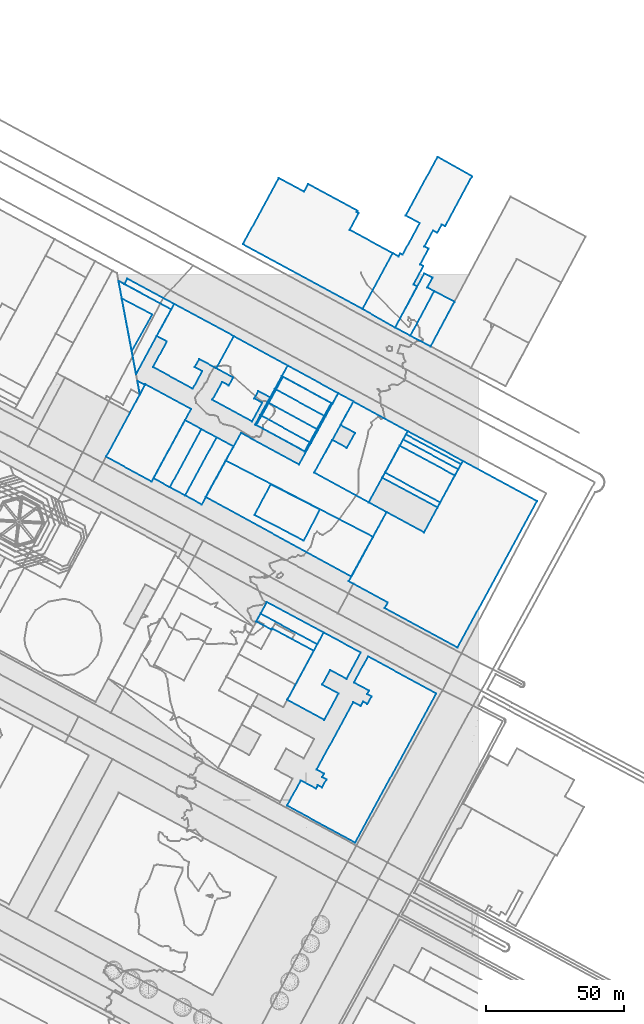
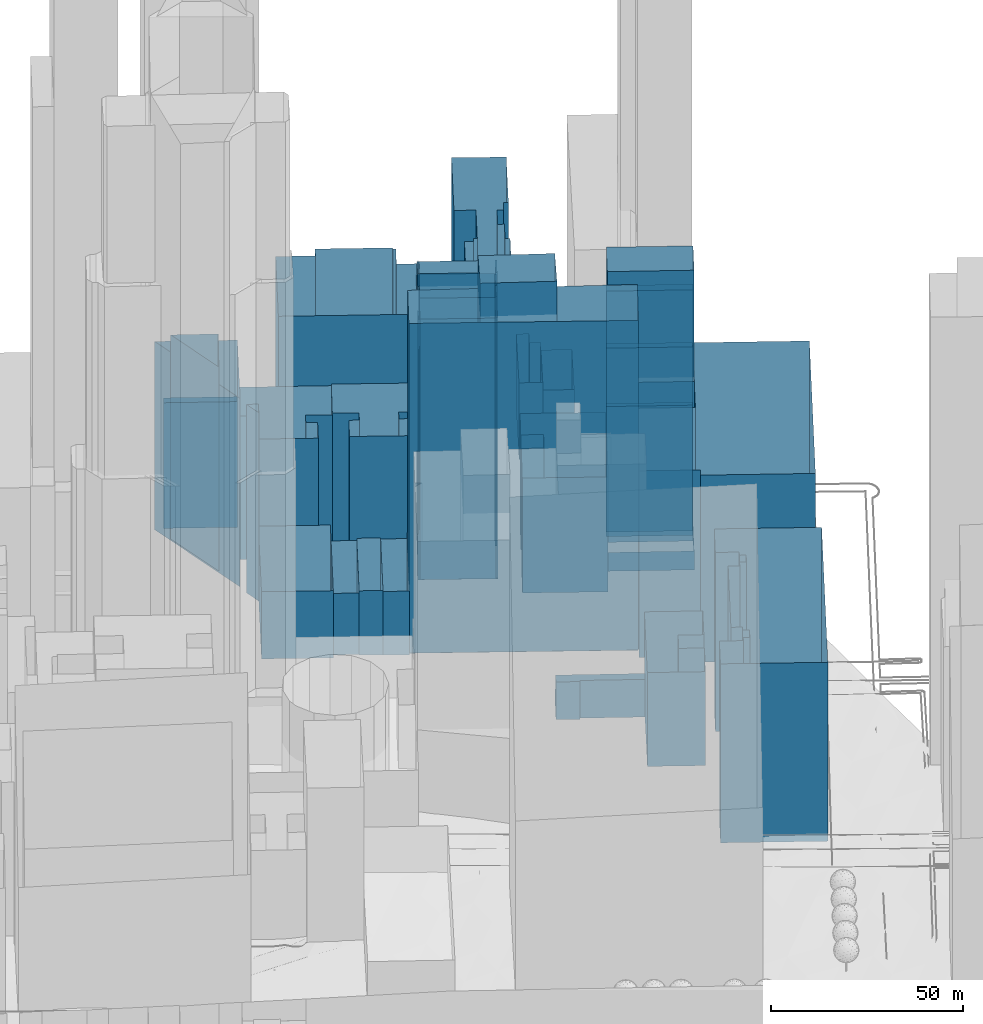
# Not in any storey, part 30 of 76: 42 walls.
"""IFC2X3 model written with IfcOpenShell, lengths in metres."""

import ifcopenshell
import ifcopenshell.guid

model = None  # the IFC model being written
_history = None  # IfcOwnerHistory: only IFC2X3 demands one
_inside = {}  # id of a spatial element -> (the spatial element, [elements in it])
_under = {}  # id of a project, library or spatial element -> (it, [spatial elements below it])
_declared = {}  # id of a project -> (the project, [libraries it declares])
_typed = {}  # id of a type object -> (the type object, [elements of that type])
_made_of = {}  # id of a material, layer set ... -> (it, [elements and type objects made of it])


def new_model(schema):
    """Start an empty IFC model of exactly this schema.

    Asked for "IFC4X3", IfcOpenShell would pick the latest addendum, in which some entities
    have other attributes; the version numbers below select the first issue.
    IFC2X3 requires an IfcOwnerHistory on every rooted entity: one is made here for all.
    """
    global model, _history
    if schema == "IFC4X3":
        model = ifcopenshell.file(schema_version=(4, 3, 0, 0))
    else:
        model = ifcopenshell.file(schema=schema)
    _inside.clear()
    _under.clear()
    _declared.clear()
    _typed.clear()
    _made_of.clear()
    _history = None
    if model.schema == "IFC2X3":
        org = make("IfcOrganization", Name="unknown")
        user = make(
            "IfcPersonAndOrganization",
            ThePerson=make("IfcPerson", FamilyName="unknown"),
            TheOrganization=org,
        )
        app = make(
            "IfcApplication",
            ApplicationDeveloper=org,
            Version="unknown",
            ApplicationFullName="unknown",
            ApplicationIdentifier="unknown",
        )
        _history = make(
            "IfcOwnerHistory",
            OwningUser=user,
            OwningApplication=app,
            ChangeAction="ADDED",
            CreationDate=0,
        )
    return model


def make(cls, **values):
    """One entity of the class cls with the attributes given. An attribute that is None is left unset."""
    return model.create_entity(
        cls, **{name: value for name, value in values.items() if value is not None}
    )


def rooted(cls, **values):
    """An entity with a GlobalId (a new one), such as an element, a storey or a relation."""
    return make(cls, GlobalId=ifcopenshell.guid.new(), OwnerHistory=_history, **values)


def si_unit(unit_type, name, prefix=None):
    """IfcSIUnit, for example si_unit("LENGTHUNIT", "METRE", prefix="MILLI")."""
    return make("IfcSIUnit", UnitType=unit_type, Prefix=prefix, Name=name)


def assignment(units):
    """IfcUnitAssignment: the units of a project."""
    return None if units is None else make("IfcUnitAssignment", Units=units)


def point(xyz):
    """IfcCartesianPoint."""
    return None if xyz is None else make("IfcCartesianPoint", Coordinates=xyz)


def direction(xyz):
    """IfcDirection."""
    return None if xyz is None else make("IfcDirection", DirectionRatios=xyz)


def frame(location, z_axis=None, x_axis=None):
    """IfcAxis2Placement3D, a coordinate frame: its origin and axes. An axis left out is left unset."""
    return make(
        "IfcAxis2Placement3D",
        Location=point(location),
        Axis=direction(z_axis),
        RefDirection=direction(x_axis),
    )


def origin_with_axes():
    """The frame at (0, 0, 0) with the z axis (0, 0, 1) and the x axis (1, 0, 0) written out."""
    return frame((0.0, 0.0, 0.0), z_axis=(0.0, 0.0, 1.0), x_axis=(1.0, 0.0, 0.0))


def place(relative_to, where):
    """IfcLocalPlacement: puts the frame where relative to a parent placement (None: the world)."""
    return make(
        "IfcLocalPlacement", PlacementRelTo=relative_to, RelativePlacement=where
    )


def context(
    kind, dimensions, precision=None, world=None, true_north=None, identifier=None
):
    """IfcGeometricRepresentationContext, for example the 3D "Model" context."""
    return make(
        "IfcGeometricRepresentationContext",
        ContextIdentifier=identifier,
        ContextType=kind,
        CoordinateSpaceDimension=dimensions,
        Precision=precision,
        WorldCoordinateSystem=world,
        TrueNorth=true_north,
    )


def subcontext(parent, identifier, kind, view, scale=None):
    """IfcGeometricRepresentationSubContext, for example "Body" below "Model"."""
    return make(
        "IfcGeometricRepresentationSubContext",
        ContextIdentifier=identifier,
        ContextType=kind,
        ParentContext=parent,
        TargetScale=scale,
        TargetView=view,
    )


def project(units=None, contexts=None):
    """IfcProject with its units and contexts."""
    return rooted(
        "IfcProject",
        Name="project",
        RepresentationContexts=contexts,
        UnitsInContext=assignment(units),
    )


def faces_of(points, faces, orient=None, outer=None):
    """IfcFace entities. A face is a list of loops; a loop is a list of indices into points, from 0.

    orient and outer hold one flag for each loop. By default every Orientation is true, the
    first loop of a face is its IfcFaceOuterBound and the others are IfcFaceBound.
    """
    made = []
    for i, loops in enumerate(faces):
        bounds = []
        for j, loop in enumerate(loops):
            is_outer = j == 0 if outer is None else outer[i][j]
            bounds.append(
                make(
                    "IfcFaceOuterBound" if is_outer else "IfcFaceBound",
                    Bound=make("IfcPolyLoop", Polygon=[points[k] for k in loop]),
                    Orientation=True if orient is None else orient[i][j],
                )
            )
        made.append(make("IfcFace", Bounds=bounds))
    return made


def faceted_brep(points, faces, orient=None, outer=None, voids=None):
    """IfcFacetedBrep: a solid bounded by flat faces; with voids (closed shells), ...WithVoids."""
    shared = [point(p) for p in points]
    hull = make("IfcClosedShell", CfsFaces=faces_of(shared, faces, orient, outer))
    if voids is None:
        return make("IfcFacetedBrep", Outer=hull)
    return make(
        "IfcFacetedBrepWithVoids",
        Outer=hull,
        Voids=[
            make(cls, CfsFaces=faces_of(shared, fs, o, b)) for cls, fs, o, b in voids
        ],
    )


def shape(context_of_items, identifier, shape_type, items):
    """IfcShapeRepresentation: the items that make up one representation, for example the "Body"."""
    return make(
        "IfcShapeRepresentation",
        ContextOfItems=context_of_items,
        RepresentationIdentifier=identifier,
        RepresentationType=shape_type,
        Items=items,
    )


def made_of(thing, what):
    """Note that an element or type object is made of a material, layer set ...; save() writes the relation."""
    if what is not None:
        _made_of.setdefault(what.id(), (what, []))[1].append(thing)
    return thing


def element(
    cls,
    number,
    at=None,
    inside=None,
    cuts=None,
    type_object=None,
    material=None,
    context=None,
    identifier="Body",
    shape_type=None,
    held_by="IfcProductDefinitionShape",
    body=None,
    shapes=None,
    **own,
):
    """One element of the class cls, such as IfcWall. Its Tag is "e" and its number.

    at: its placement. inside: the storey or other place that contains it. cuts: it is an
    opening in that element (IfcRelVoidsElement). A single representation is given by context,
    identifier, shape_type and body (its items); several are given by shapes. held_by: the class
    of the entity that holds the representations. save() writes the other relations.
    """
    e = rooted(cls, Tag="e%d" % number, ObjectPlacement=at, **own)
    if body is not None:
        shapes = [shape(context, identifier, shape_type, body)]
    if shapes is not None:
        e.Representation = make(held_by, Representations=shapes)
    if inside is not None:
        _inside.setdefault(inside.id(), (inside, []))[1].append(e)
    if cuts is not None:
        rooted(
            "IfcRelVoidsElement", RelatingBuildingElement=cuts, RelatedOpeningElement=e
        )
    if type_object is not None:
        _typed.setdefault(type_object.id(), (type_object, []))[1].append(e)
    return made_of(e, material)


def aggregate(whole, parts):
    """IfcRelAggregates: a whole, such as a stair, and the parts it consists of."""
    return rooted("IfcRelAggregates", RelatingObject=whole, RelatedObjects=parts)


def save(model, path):
    """Write the relations noted so far, then the file.

    IfcRelAggregates (storeys below a building ...), IfcRelContainedInSpatialStructure (elements
    in a storey), IfcRelDefinesByType, IfcRelAssociatesMaterial and IfcRelDeclares: one each for
    every whole, place, type object, material and project.
    """
    for whole, parts in _under.values():
        aggregate(whole, parts)
    for where, things in _inside.values():
        rooted(
            "IfcRelContainedInSpatialStructure",
            RelatedElements=things,
            RelatingStructure=where,
        )
    for kind, things in _typed.values():
        rooted("IfcRelDefinesByType", RelatedObjects=things, RelatingType=kind)
    for what, things in _made_of.values():
        rooted("IfcRelAssociatesMaterial", RelatedObjects=things, RelatingMaterial=what)
    for by, libraries in _declared.values():
        rooted("IfcRelDeclares", RelatingContext=by, RelatedDefinitions=libraries)
    model.write(path)


model = new_model("IFC2X3")

# Units and contexts
model_context = context("Model", 3, precision=1e-05, world=origin_with_axes())
body_context = subcontext(model_context, "Body", "Model", "MODEL_VIEW")
ifc_project = project(units=[si_unit("AREAUNIT", "SQUARE_METRE"), si_unit("LENGTHUNIT", "METRE")], contexts=[model_context])

# Walls
wall_1_placement = place(None, frame((266.3530254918, 299.6136626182, 20.7337095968), z_axis=(0.0, 0.0, 1.0), x_axis=(1.0, 0.0, 0.0)))
element("IfcWall", 1, at=wall_1_placement, Name="Mur 0", context=body_context, shape_type="Brep", body=[
    faceted_brep([(6.0824874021, -3.3043014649, 20.2999992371), (0.0, 0.0, 20.2999992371), (6.0824874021, -3.3043014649, 0.0), (0.0, 0.0, 0.0), (17.4959425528, 17.6674815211, 20.2999992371), (17.4959425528, 17.6674815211, 0.0), (11.3880168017, 20.9825795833, 20.2999992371), (11.3880168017, 20.9825795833, 0.0)], [[[0, 1, 2]], [[2, 1, 3]], [[4, 0, 5]], [[5, 0, 2]], [[1, 6, 3]], [[3, 6, 7]], [[6, 4, 7]], [[7, 4, 5]]]),
])
wall_2_placement = place(None, frame((273.8050706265, 299.0342517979, 19.0727612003), z_axis=(0.0, 0.0, 1.0), x_axis=(1.0, 0.0, 0.0)))
element("IfcWall", 2, at=wall_2_placement, Name="Mur 0", context=body_context, shape_type="Brep", body=[
    faceted_brep([(52.5953372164, -28.7420789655, 20.0), (0.0, 0.0, 20.0), (52.5953372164, -28.7420789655, 0.0), (0.0, 0.0, 0.0), (65.4084536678, -5.4668426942, 20.0), (65.4084536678, -5.4668426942, 0.0), (39.2593969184, 8.8281193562, 20.0), (39.2593969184, 8.8281193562, 0.0), (53.4200569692, 34.5393207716, 20.0), (53.4200569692, 34.5393207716, 0.0), (47.9405768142, 37.5286335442, 20.0), (47.9405768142, 37.5286335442, 0.0), (33.7387369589, 11.728145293, 20.0), (33.7387369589, 11.728145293, 0.0), (12.77205858, 23.1858472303, 20.0), (12.77205858, 23.1858472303, 0.0)], [[[0, 1, 2]], [[2, 1, 3]], [[4, 0, 5]], [[5, 0, 2]], [[6, 4, 7]], [[7, 4, 5]], [[8, 6, 9]], [[9, 6, 7]], [[10, 8, 11]], [[11, 8, 9]], [[12, 10, 13]], [[13, 10, 11]], [[1, 14, 3]], [[3, 14, 15]], [[14, 12, 15]], [[15, 12, 13]]]),
])
wall_3_placement = place(None, frame((291.481800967, 292.4676192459, 19.6985343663), z_axis=(0.0, 0.0, 1.0), x_axis=(1.0, 0.0, 0.0)))
element("IfcWall", 3, at=wall_3_placement, Name="Mur 0", context=body_context, shape_type="Brep", body=[
    faceted_brep([(17.8254281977, -9.1849936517, 115.0), (0.0, 0.0, 115.0), (17.8254281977, -9.1849936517, 0.0), (0.0, 0.0, 0.0), (23.6378591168, 2.0071491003, 115.0), (23.6378591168, 2.0071491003, 0.0), (5.7876459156, 11.1474308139, 115.0), (5.7876459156, 11.1474308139, 0.0)], [[[0, 1, 2]], [[2, 1, 3]], [[4, 0, 5]], [[5, 0, 2]], [[1, 6, 3]], [[3, 6, 7]], [[6, 4, 7]], [[7, 4, 5]]]),
])
wall_4_placement = place(None, frame((273.8050706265, 299.0342517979, 19.1231456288), z_axis=(0.0, 0.0, 1.0), x_axis=(1.0, 0.0, 0.0)))
element("IfcWall", 4, at=wall_4_placement, Name="Mur 0", context=body_context, shape_type="Brep", body=[
    faceted_brep([(52.5953372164, -28.7420789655, 105.0), (0.0, 0.0, 105.0), (52.5953372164, -28.7420789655, 0.0), (0.0, 0.0, 0.0), (60.4982423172, -14.3947384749, 105.0), (60.4982423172, -14.3947384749, 0.0), (7.2580721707, 13.1851425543, 105.0), (7.2580721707, 13.1851425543, 0.0)], [[[0, 1, 2]], [[2, 1, 3]], [[4, 0, 5]], [[5, 0, 2]], [[1, 6, 3]], [[3, 6, 7]], [[6, 4, 7]], [[7, 4, 5]]]),
])
wall_5_placement = place(None, frame((313.0644675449, 307.8623711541, 19.1866417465), z_axis=(0.0, 0.0, 1.0), x_axis=(1.0, 0.0, 0.0)))
element("IfcWall", 5, at=wall_5_placement, Name="Mur 0", context=body_context, shape_type="Brep", body=[
    faceted_brep([(19.658559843, -10.751216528, 36.5999984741), (0.0, 0.0, 36.5999984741), (19.658559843, -10.751216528, 0.0), (0.0, 0.0, 0.0), (33.8190454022, 14.9711235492, 36.5999984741), (33.8190454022, 14.9711235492, 0.0), (14.1606600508, 25.7112014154, 36.5999984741), (14.1606600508, 25.7112014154, 0.0), (9.4817474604, 17.2189943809, 36.5999984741), (9.4817474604, 17.2189943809, 0.0), (14.7234881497, 14.349038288, 36.5999984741), (14.7234881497, 14.349038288, 0.0), (11.7557583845, 8.9631871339, 36.5999984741), (11.7557583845, 8.9631871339, 0.0), (6.5141444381, 11.8220445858, 36.5999984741), (6.5141444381, 11.8220445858, 0.0)], [[[0, 1, 2]], [[2, 1, 3]], [[4, 0, 5]], [[5, 0, 2]], [[6, 4, 7]], [[7, 4, 5]], [[8, 6, 9]], [[9, 6, 7]], [[10, 8, 11]], [[11, 8, 9]], [[12, 10, 13]], [[13, 10, 11]], [[1, 14, 3]], [[3, 14, 15]], [[14, 12, 15]], [[15, 12, 13]]]),
])
wall_6_placement = place(None, frame((337.6756915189, 306.0173396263, 18.6021443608), z_axis=(0.0, 0.0, 1.0), x_axis=(1.0, 0.0, 0.0)))
element("IfcWall", 6, at=wall_6_placement, Name="Mur 0", context=body_context, shape_type="Brep", body=[
    faceted_brep([(19.9288194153, -10.7591061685, 6.0), (0.0, 0.0, 6.0), (19.9288194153, -10.7591061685, 0.0), (0.0, 0.0, 0.0), (29.0941508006, 6.0787837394, 6.0), (29.0941508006, 6.0787837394, 0.0), (9.2078214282, 16.816155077, 6.0), (9.2078214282, 16.816155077, 0.0)], [[[0, 1, 2]], [[2, 1, 3]], [[4, 0, 5]], [[5, 0, 2]], [[1, 6, 3]], [[3, 6, 7]], [[6, 4, 7]], [[7, 4, 5]]]),
])
wall_7_placement = place(None, frame((337.6756915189, 306.0173396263, 18.6175268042), z_axis=(0.0, 0.0, 1.0), x_axis=(1.0, 0.0, 0.0)))
element("IfcWall", 7, at=wall_7_placement, Name="Mur 0", context=body_context, shape_type="Brep", body=[
    faceted_brep([(19.9288194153, -10.7591061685, 60.0), (0.0, 0.0, 60.0), (19.9288194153, -10.7591061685, 0.0), (0.0, 0.0, 0.0), (20.9205700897, -8.9378836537, 60.0), (20.9205700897, -8.9378836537, 0.0), (0.9833137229, 1.8211215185, 60.0), (0.9833137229, 1.8211215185, 0.0)], [[[0, 1, 2]], [[2, 1, 3]], [[4, 0, 5]], [[5, 0, 2]], [[1, 6, 3]], [[3, 6, 7]], [[6, 4, 7]], [[7, 4, 5]]]),
])
wall_8_placement = place(None, frame((338.6590052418, 307.8384611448, 18.5825367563), z_axis=(0.0, 0.0, 1.0), x_axis=(1.0, 0.0, 0.0)))
element("IfcWall", 8, at=wall_8_placement, Name="Mur 0", context=body_context, shape_type="Brep", body=[
    faceted_brep([(19.9372563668, -10.7590051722, 94.0), (0.0, 0.0, 94.0), (19.9372563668, -10.7590051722, 0.0), (0.0, 0.0, 0.0), (25.2348095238, -1.0272163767, 94.0), (25.2348095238, -1.0272163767, 0.0), (5.3058816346, 9.7429734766, 94.0), (5.3058816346, 9.7429734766, 0.0)], [[[0, 1, 2]], [[2, 1, 3]], [[4, 0, 5]], [[5, 0, 2]], [[1, 6, 3]], [[3, 6, 7]], [[6, 4, 7]], [[7, 4, 5]]]),
])
wall_9_placement = place(None, frame((325.5761584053, 268.583928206, 18.0179124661), z_axis=(0.0, 0.0, 1.0), x_axis=(1.0, 0.0, 0.0)))
element("IfcWall", 9, at=wall_9_placement, Name="Mur 0", context=body_context, shape_type="Brep", body=[
    faceted_brep([(14.076432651, -7.6409558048, 59.5), (0.0, 0.0, 59.5), (14.076432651, -7.6409558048, 0.0), (0.0, 0.0, 0.0), (12.9441609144, -9.7191640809, 59.5), (12.9441609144, -9.7191640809, 0.0), (39.2536749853, -24.0010695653, 59.5), (39.2536749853, -24.0010695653, 0.0), (68.012848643, 28.9476731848, 59.5), (68.012848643, 28.9476731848, 0.0), (41.1936839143, 43.5121951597, 59.5), (41.1936839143, 43.5121951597, 0.0), (27.1697109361, 17.669281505, 59.5), (27.1697109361, 17.669281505, 0.0), (13.637365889, 24.9834808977, 59.5), (13.637365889, 24.9834808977, 0.0)], [[[0, 1, 2]], [[2, 1, 3]], [[4, 0, 5]], [[5, 0, 2]], [[6, 4, 7]], [[7, 4, 5]], [[8, 6, 9]], [[9, 6, 7]], [[10, 8, 11]], [[11, 8, 9]], [[12, 10, 13]], [[13, 10, 11]], [[1, 14, 3]], [[3, 14, 15]], [[14, 12, 15]], [[15, 12, 13]]]),
])
wall_10_placement = place(None, frame((293.6269824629, 256.8432308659, 18.9579737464), z_axis=(0.0, 0.0, 1.0), x_axis=(1.0, 0.0, 0.0)))
element("IfcWall", 10, at=wall_10_placement, Name="Mur 0", context=body_context, shape_type="Brep", body=[
    faceted_brep([(20.5398148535, -11.0296681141, 4.0), (0.0, 0.0, 4.0), (20.5398148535, -11.0296681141, 0.0), (0.0, 0.0, 0.0), (22.8372318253, -6.7951607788, 4.0), (22.8372318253, -6.7951607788, 0.0), (2.2972956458, 4.2456016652, 4.0), (2.2972956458, 4.2456016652, 0.0)], [[[0, 1, 2]], [[2, 1, 3]], [[4, 0, 5]], [[5, 0, 2]], [[1, 6, 3]], [[3, 6, 7]], [[6, 4, 7]], [[7, 4, 5]]]),
])
wall_11_placement = place(None, frame((292.1145845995, 254.0611627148, 18.8063007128), z_axis=(0.0, 0.0, 1.0), x_axis=(1.0, 0.0, 0.0)))
element("IfcWall", 11, at=wall_11_placement, Name="Mur 0", context=body_context, shape_type="Brep", body=[
    faceted_brep([(5.5893804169, -2.9991585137, 12.0), (0.0, 0.0, 12.0), (5.5893804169, -2.9991585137, 0.0), (0.0, 0.0, 0.0), (5.8122286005, -2.5635761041, 12.0), (5.8122286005, -2.5635761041, 0.0), (20.7796774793, -10.6049936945, 12.0), (20.7796774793, -10.6049936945, 0.0), (22.0522127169, -8.2475999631, 12.0), (22.0522127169, -8.2475999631, 0.0), (1.5123978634, 2.782068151, 12.0), (1.5123978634, 2.782068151, 0.0)], [[[0, 1, 2]], [[2, 1, 3]], [[4, 0, 5]], [[5, 0, 2]], [[6, 4, 7]], [[7, 4, 5]], [[8, 6, 9]], [[9, 6, 7]], [[1, 10, 3]], [[3, 10, 11]], [[10, 8, 11]], [[11, 8, 9]]]),
])
wall_12_placement = place(None, frame((303.3084719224, 225.7363797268, 17.1584864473), z_axis=(0.0, 0.0, 1.0), x_axis=(1.0, 0.0, 0.0)))
element("IfcWall", 12, at=wall_12_placement, Name="Mur 0", context=body_context, shape_type="Brep", body=[
    faceted_brep([(13.3627175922, -7.2385258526, 29.8999996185), (0.0, 0.0, 29.8999996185), (13.3627175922, -7.2385258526, 0.0), (0.0, 0.0, 0.0), (18.4944225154, 2.2470477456, 29.8999996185), (18.4944225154, 2.2470477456, 0.0), (12.598836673, 5.4424640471, 29.8999996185), (12.598836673, 5.4424640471, 0.0), (15.4662305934, 10.7494256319, 29.8999996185), (15.4662305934, 10.7494256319, 0.0), (21.3872638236, 7.5432057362, 29.8999996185), (21.3872638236, 7.5432057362, 0.0), (26.5521917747, 17.0735816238, 29.8999996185), (26.5521917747, 17.0735816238, 0.0), (13.1557423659, 24.3116903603, 29.8999996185), (13.1557423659, 24.3116903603, 0.0)], [[[0, 1, 2]], [[2, 1, 3]], [[4, 0, 5]], [[5, 0, 2]], [[6, 4, 7]], [[7, 4, 5]], [[8, 6, 9]], [[9, 6, 7]], [[10, 8, 11]], [[11, 8, 9]], [[12, 10, 13]], [[13, 10, 11]], [[1, 14, 3]], [[3, 14, 15]], [[14, 12, 15]], [[15, 12, 13]]]),
])
wall_13_placement = place(None, frame((303.2307671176, 187.4548822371, 16.0810150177), z_axis=(0.0, 0.0, 1.0), x_axis=(1.0, 0.0, 0.0)))
element("IfcWall", 13, at=wall_13_placement, Name="Mur 0", context=body_context, shape_type="Brep", body=[
    faceted_brep([(24.6276355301, -13.3690300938, 57.0), (0.0, 0.0, 57.0), (24.6276355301, -13.3690300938, 0.0), (0.0, 0.0, 0.0), (53.9161640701, 40.5627141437, 57.0), (53.9161640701, 40.5627141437, 0.0), (29.2885192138, 53.9427467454, 57.0), (29.2885192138, 53.9427467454, 0.0), (24.1811245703, 44.5462660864, 57.0), (24.1811245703, 44.5462660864, 0.0), (29.6519839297, 41.5790599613, 57.0), (29.6519839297, 41.5790599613, 0.0), (28.9577343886, 40.3053169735, 57.0), (28.9577343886, 40.3053169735, 0.0), (30.5208380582, 39.4575443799, 57.0), (30.5208380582, 39.4575443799, 0.0), (29.0497451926, 36.7536647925, 57.0), (29.0497451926, 36.7536647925, 0.0), (27.4866411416, 37.6014376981, 57.0), (27.4866411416, 37.6014376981, 0.0), (26.6272039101, 36.0149079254, 57.0), (26.6272039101, 36.0149079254, 0.0), (23.9513070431, 37.4603469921, 57.0), (23.9513070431, 37.4603469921, 0.0), (10.6788082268, 13.0251545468, 57.0), (10.6788082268, 13.0251545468, 0.0), (13.3548402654, 11.5686098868, 57.0), (13.3548402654, 11.5686098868, 0.0), (12.6853890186, 10.3395664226, 57.0), (12.6853890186, 10.3395664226, 0.0), (14.2400565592, 9.4916920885, 57.0), (14.2400565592, 9.4916920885, 0.0), (12.6699936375, 6.5868231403, 57.0), (12.6699936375, 6.5868231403, 0.0), (11.140776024, 7.4238918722, 57.0), (11.140776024, 7.4238918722, 0.0), (10.4549602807, 6.1502490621, 57.0), (10.4549602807, 6.1502490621, 0.0), (4.9585038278, 9.1393762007, 57.0), (4.9585038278, 9.1393762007, 0.0)], [[[0, 1, 2]], [[2, 1, 3]], [[4, 0, 5]], [[5, 0, 2]], [[6, 4, 7]], [[7, 4, 5]], [[8, 6, 9]], [[9, 6, 7]], [[10, 8, 11]], [[11, 8, 9]], [[12, 10, 13]], [[13, 10, 11]], [[14, 12, 15]], [[15, 12, 13]], [[16, 14, 17]], [[17, 14, 15]], [[18, 16, 19]], [[19, 16, 17]], [[20, 18, 21]], [[21, 18, 19]], [[22, 20, 23]], [[23, 20, 21]], [[24, 22, 25]], [[25, 22, 23]], [[26, 24, 27]], [[27, 24, 25]], [[28, 26, 29]], [[29, 26, 27]], [[30, 28, 31]], [[31, 28, 29]], [[32, 30, 33]], [[33, 30, 31]], [[34, 32, 35]], [[35, 32, 33]], [[36, 34, 37]], [[37, 34, 35]], [[1, 38, 3]], [[3, 38, 39]], [[38, 36, 39]], [[39, 36, 37]]]),
])
wall_14_placement = place(None, frame((347.815184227, 357.3501845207, 19.4967408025), z_axis=(0.0, 0.0, 1.0), x_axis=(1.0, 0.0, 0.0)))
element("IfcWall", 14, at=wall_14_placement, Name="Mur 0", context=body_context, shape_type="Brep", body=[
    faceted_brep([(7.30458982, -3.8673156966, 22.1000003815), (0.0, 0.0, 22.1000003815), (7.30458982, -3.8673156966, 0.0), (0.0, 0.0, 0.0), (15.9293867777, 12.2648342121, 22.1000003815), (15.9293867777, 12.2648342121, 0.0), (8.6248078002, 16.13214132, 22.1000003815), (8.6248078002, 16.13214132, 0.0)], [[[0, 1, 2]], [[2, 1, 3]], [[4, 0, 5]], [[5, 0, 2]], [[1, 6, 3]], [[3, 6, 7]], [[6, 4, 7]], [[7, 4, 5]]]),
])
wall_15_placement = place(None, frame((342.3281774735, 360.2616784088, 19.6845045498), z_axis=(0.0, 0.0, 1.0), x_axis=(1.0, 0.0, 0.0)))
element("IfcWall", 15, at=wall_15_placement, Name="Mur 0", context=body_context, shape_type="Brep", body=[
    faceted_brep([(5.4870067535, -2.9114938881, 24.3999996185), (0.0, 0.0, 24.3999996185), (5.4870067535, -2.9114938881, 0.0), (0.0, 0.0, 0.0), (14.1118145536, 13.2206474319, 24.3999996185), (14.1118145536, 13.2206474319, 0.0), (11.6146310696, 14.5460328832, 24.3999996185), (11.6146310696, 14.5460328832, 0.0), (13.4982515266, 18.0651895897, 24.3999996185), (13.4982515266, 18.0651895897, 0.0), (10.4999972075, 19.6511924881, 24.3999996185), (10.4999972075, 19.6511924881, 0.0)], [[[0, 1, 2]], [[2, 1, 3]], [[4, 0, 5]], [[5, 0, 2]], [[6, 4, 7]], [[7, 4, 5]], [[8, 6, 9]], [[9, 6, 7]], [[1, 10, 3]], [[3, 10, 11]], [[10, 8, 11]], [[11, 8, 9]]]),
])
wall_16_placement = place(None, frame((291.7498532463, 325.277922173, 20.2810071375), z_axis=(0.0, 0.0, 1.0), x_axis=(1.0, 0.0, 0.0)))
element("IfcWall", 16, at=wall_16_placement, Name="Mur 0", context=body_context, shape_type="Brep", body=[
    faceted_brep([(18.2821181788, -9.9901391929, 6.0), (0.0, 0.0, 6.0), (18.2821181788, -9.9901391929, 0.0), (0.0, 0.0, 0.0), (29.9957941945, 11.2849631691, 6.0), (29.9957941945, 11.2849631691, 0.0), (11.7137108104, 21.2750732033, 6.0), (11.7137108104, 21.2750732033, 0.0)], [[[0, 1, 2]], [[2, 1, 3]], [[4, 0, 5]], [[5, 0, 2]], [[1, 6, 3]], [[3, 6, 7]], [[6, 4, 7]], [[7, 4, 5]]]),
])
wall_17_placement = place(None, frame((296.5802961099, 333.0835325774, 20.3677468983), z_axis=(0.0, 0.0, 1.0), x_axis=(1.0, 0.0, 0.0)))
element("IfcWall", 17, at=wall_17_placement, Name="Mur 0", context=body_context, shape_type="Brep", body=[
    faceted_brep([(17.4583642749, -9.5667304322, 91.0), (0.0, 0.0, 91.0), (17.4583642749, -9.5667304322, 0.0), (0.0, 0.0, 0.0), (20.0861254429, -4.7066486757, 91.0), (20.0861254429, -4.7066486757, 0.0), (2.6876256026, 4.7941587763, 91.0), (2.6876256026, 4.7941587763, 0.0)], [[[0, 1, 2]], [[2, 1, 3]], [[4, 0, 5]], [[5, 0, 2]], [[1, 6, 3]], [[3, 6, 7]], [[6, 4, 7]], [[7, 4, 5]]]),
])
wall_18_placement = place(None, frame((292.1322472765, 325.0603282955, 20.29910505), z_axis=(0.0, 0.0, 1.0), x_axis=(1.0, 0.0, 0.0)))
element("IfcWall", 18, at=wall_18_placement, Name="Mur 0", context=body_context, shape_type="Brep", body=[
    faceted_brep([(17.4495487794, -9.5335370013, 83.0), (0.0, 0.0, 83.0), (17.4495487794, -9.5335370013, 0.0), (0.0, 0.0, 0.0), (27.0802443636, 7.9425396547, 83.0), (27.0802443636, 7.9425396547, 0.0), (9.6733115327, 17.4432428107, 83.0), (9.6733115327, 17.4432428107, 0.0)], [[[0, 1, 2]], [[2, 1, 3]], [[4, 0, 5]], [[5, 0, 2]], [[1, 6, 3]], [[3, 6, 7]], [[6, 4, 7]], [[7, 4, 5]]]),
])
wall_19_placement = place(None, frame((294.0094084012, 328.4128587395, 20.2723875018), z_axis=(0.0, 0.0, 1.0), x_axis=(1.0, 0.0, 0.0)))
element("IfcWall", 19, at=wall_19_placement, Name="Mur 0", context=body_context, shape_type="Brep", body=[
    faceted_brep([(17.4333093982, -9.5892328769, 87.0), (0.0, 0.0, 87.0), (17.4333093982, -9.5892328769, 0.0), (0.0, 0.0, 0.0), (22.6570131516, -0.0359748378, 87.0), (22.6570131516, -0.0359748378, 0.0), (5.2585133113, 9.4648326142, 87.0), (5.2585133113, 9.4648326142, 0.0)], [[[0, 1, 2]], [[2, 1, 3]], [[4, 0, 5]], [[5, 0, 2]], [[1, 6, 3]], [[3, 6, 7]], [[6, 4, 7]], [[7, 4, 5]]]),
])
wall_20_placement = place(None, frame((296.1724525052, 333.3119322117, 20.3484595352), z_axis=(0.0, 0.0, 1.0), x_axis=(1.0, 0.0, 0.0)))
element("IfcWall", 20, at=wall_20_placement, Name="Mur 0", context=body_context, shape_type="Brep", body=[
    faceted_brep([(0.4078436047, -0.2283996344, 91.0), (0.0, 0.0, 91.0), (0.4078436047, -0.2283996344, 0.0), (0.0, 0.0, 0.0), (3.0954692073, 4.5657591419, 91.0), (3.0954692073, 4.5657591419, 0.0), (2.6536065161, 4.8159671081, 91.0), (2.6536065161, 4.8159671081, 0.0)], [[[0, 1, 2]], [[2, 1, 3]], [[4, 0, 5]], [[5, 0, 2]], [[1, 6, 3]], [[3, 6, 7]], [[6, 4, 7]], [[7, 4, 5]]]),
])
wall_21_placement = place(None, frame((298.8260590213, 338.1278993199, 20.4512900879), z_axis=(0.0, 0.0, 1.0), x_axis=(1.0, 0.0, 0.0)))
element("IfcWall", 21, at=wall_21_placement, Name="Mur 0", context=body_context, shape_type="Brep", body=[
    faceted_brep([(0.4418626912, -0.2502079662, 83.0), (0.0, 0.0, 83.0), (0.4418626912, -0.2502079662, 0.0), (0.0, 0.0, 0.0), (2.9794997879, 4.3756717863, 83.0), (2.9794997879, 4.3756717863, 0.0), (2.5462067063, 4.6148771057, 83.0), (2.5462067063, 4.6148771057, 0.0)], [[[0, 1, 2]], [[2, 1, 3]], [[4, 0, 5]], [[5, 0, 2]], [[1, 6, 3]], [[3, 6, 7]], [[6, 4, 7]], [[7, 4, 5]]]),
])
wall_22_placement = place(None, frame((301.3722657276, 342.7427764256, 20.3932714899), z_axis=(0.0, 0.0, 1.0), x_axis=(1.0, 0.0, 0.0)))
element("IfcWall", 22, at=wall_22_placement, Name="Mur 0", context=body_context, shape_type="Brep", body=[
    faceted_brep([(18.2820896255, -9.9901152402, 24.0), (0.0, 0.0, 24.0), (18.2820896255, -9.9901152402, 0.0), (0.0, 0.0, 0.0), (20.3733817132, -6.1798910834, 24.0), (20.3733817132, -6.1798910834, 0.0), (2.0912983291, 3.8102189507, 24.0), (2.0912983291, 3.8102189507, 0.0)], [[[0, 1, 2]], [[2, 1, 3]], [[4, 0, 5]], [[5, 0, 2]], [[1, 6, 3]], [[3, 6, 7]], [[6, 4, 7]], [[7, 4, 5]]]),
])
wall_23_placement = place(None, frame((287.2771431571, 390.440545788, 19.5504613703), z_axis=(0.0, 0.0, 1.0), x_axis=(1.0, 0.0, 0.0)))
element("IfcWall", 23, at=wall_23_placement, Name="Mur 0", context=body_context, shape_type="Brep", body=[
    faceted_brep([(43.2307270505, -23.4442358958, 46.7000007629), (0.0, 0.0, 46.7000007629), (43.2307270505, -23.4442358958, 0.0), (0.0, 0.0, 0.0), (54.1635554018, -3.2662126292, 46.7000007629), (54.1635554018, -3.2662126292, 0.0), (38.558435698, 5.1896020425, 46.7000007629), (38.558435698, 5.1896020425, 0.0), (41.8392282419, 11.2341347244, 46.7000007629), (41.8392282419, 11.2341347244, 0.0), (41.1511824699, 11.603598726, 46.7000007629), (41.1511824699, 11.603598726, 0.0), (41.4073966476, 12.0728777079, 46.7000007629), (41.4073966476, 12.0728777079, 0.0), (23.5851064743, 21.7352532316, 46.7000007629), (23.5851064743, 21.7352532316, 0.0), (22.0893707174, 18.9755783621, 46.7000007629), (22.0893707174, 18.9755783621, 0.0), (12.9658813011, 23.9208852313, 46.7000007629), (12.9658813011, 23.9208852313, 0.0)], [[[0, 1, 2]], [[2, 1, 3]], [[4, 0, 5]], [[5, 0, 2]], [[6, 4, 7]], [[7, 4, 5]], [[8, 6, 9]], [[9, 6, 7]], [[10, 8, 11]], [[11, 8, 9]], [[12, 10, 13]], [[13, 10, 11]], [[14, 12, 15]], [[15, 12, 13]], [[16, 14, 17]], [[17, 14, 15]], [[1, 18, 3]], [[3, 18, 19]], [[18, 16, 19]], [[19, 16, 17]]]),
])
wall_24_placement = place(None, frame((330.5078702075, 366.9963098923, 19.4574403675), z_axis=(0.0, 0.0, 1.0), x_axis=(1.0, 0.0, 0.0)))
element("IfcWall", 24, at=wall_24_placement, Name="Mur 0", context=body_context, shape_type="Brep", body=[
    faceted_brep([(11.820307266, -6.7346314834, 53.5999984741), (0.0, 0.0, 53.5999984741), (11.820307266, -6.7346314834, 0.0), (0.0, 0.0, 0.0), (19.7924457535, 8.1797535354, 53.5999984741), (19.7924457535, 8.1797535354, 0.0), (18.4247873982, 8.9187760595, 53.5999984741), (18.4247873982, 8.9187760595, 0.0), (22.0029504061, 15.5218964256, 53.5999984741), (22.0029504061, 15.5218964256, 0.0), (20.8307096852, 16.1521722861, 53.5999984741), (20.8307096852, 16.1521722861, 0.0), (23.9048809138, 21.8168325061, 53.5999984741), (23.9048809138, 21.8168325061, 0.0), (22.3588177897, 22.6536963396, 53.5999984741), (22.3588177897, 22.6536963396, 0.0), (25.4824619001, 28.4188540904, 53.5999984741), (25.4824619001, 28.4188540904, 0.0), (27.0285242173, 27.5819909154, 53.5999984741), (27.0285242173, 27.5819909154, 0.0), (28.6399501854, 30.5539667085, 53.5999984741), (28.6399501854, 30.5539667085, 0.0), (29.8037492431, 29.9235937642, 53.5999984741), (29.8037492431, 29.9235937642, 0.0), (39.5792805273, 47.9898524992, 53.5999984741), (39.5792805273, 47.9898524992, 0.0), (27.1227912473, 54.9945837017, 53.5999984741), (27.1227912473, 54.9945837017, 0.0), (15.6529613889, 33.8221759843, 53.5999984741), (15.6529613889, 33.8221759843, 0.0), (20.6989844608, 31.0831847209, 53.5999984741), (20.6989844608, 31.0831847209, 0.0), (14.5094742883, 19.6645705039, 53.5999984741), (14.5094742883, 19.6645705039, 0.0), (13.6345794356, 20.1317770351, 53.5999984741), (13.6345794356, 20.1317770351, 0.0), (13.0395606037, 19.036824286, 53.5999984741), (13.0395606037, 19.036824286, 0.0), (10.9328283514, 20.1780232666, 53.5999984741), (10.9328283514, 20.1780232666, 0.0)], [[[0, 1, 2]], [[2, 1, 3]], [[4, 0, 5]], [[5, 0, 2]], [[6, 4, 7]], [[7, 4, 5]], [[8, 6, 9]], [[9, 6, 7]], [[10, 8, 11]], [[11, 8, 9]], [[12, 10, 13]], [[13, 10, 11]], [[14, 12, 15]], [[15, 12, 13]], [[16, 14, 17]], [[17, 14, 15]], [[18, 16, 19]], [[19, 16, 17]], [[20, 18, 21]], [[21, 18, 19]], [[22, 20, 23]], [[23, 20, 21]], [[24, 22, 25]], [[25, 22, 23]], [[26, 24, 27]], [[27, 24, 25]], [[28, 26, 29]], [[29, 26, 27]], [[30, 28, 31]], [[31, 28, 29]], [[32, 30, 33]], [[33, 30, 31]], [[34, 32, 35]], [[35, 32, 33]], [[36, 34, 37]], [[37, 34, 35]], [[1, 38, 3]], [[3, 38, 39]], [[38, 36, 39]], [[39, 36, 37]]]),
])
wall_25_placement = place(None, frame((244.4280234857, 376.0307569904, 22.4522062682), z_axis=(0.0, 0.0, 1.0), x_axis=(1.0, 0.0, 0.0)))
element("IfcWall", 25, at=wall_25_placement, Name="Mur 0", context=body_context, shape_type="Brep", body=[
    faceted_brep([(16.9132443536, -9.1624091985, 40.0), (0.0, 0.0, 40.0), (16.9132443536, -9.1624091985, 0.0), (0.0, 0.0, 0.0), (17.9876011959, -7.1848068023, 40.0), (17.9876011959, -7.1848068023, 0.0), (1.0744890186, 1.9664991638, 40.0), (1.0744890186, 1.9664991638, 0.0)], [[[0, 1, 2]], [[2, 1, 3]], [[4, 0, 5]], [[5, 0, 2]], [[1, 6, 3]], [[3, 6, 7]], [[6, 4, 7]], [[7, 4, 5]]]),
])
wall_26_placement = place(None, frame((242.3300029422, 377.1498806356, 22.0498553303), z_axis=(0.0, 0.0, 1.0), x_axis=(1.0, 0.0, 0.0)))
element("IfcWall", 26, at=wall_26_placement, Name="Mur 0", context=body_context, shape_type="Brep", body=[
    faceted_brep([(1.1962854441, -6.3254728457, 60.0), (0.0, 0.0, 60.0), (1.1962854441, -6.3254728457, 0.0), (0.0, 0.0, 0.0), (6.3508708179, -33.6325728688, 60.0), (6.3508708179, -33.6325728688, 0.0), (19.0112648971, -10.2815328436, 60.0), (19.0112648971, -10.2815328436, 0.0)], [[[0, 1, 2]], [[2, 1, 3]], [[4, 0, 5]], [[5, 0, 2]], [[1, 6, 3]], [[3, 6, 7]], [[6, 4, 7]], [[7, 4, 5]]]),
])
wall_27_placement = place(None, frame((243.5262883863, 370.8244077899, 22.5439694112), z_axis=(0.0, 0.0, 1.0), x_axis=(1.0, 0.0, 0.0)))
element("IfcWall", 27, at=wall_27_placement, Name="Mur 0", context=body_context, shape_type="Brep", body=[
    faceted_brep([(3.5714703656, -18.9322105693, 65.0), (0.0, 0.0, 65.0), (3.5714703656, -18.9322105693, 0.0), (0.0, 0.0, 0.0), (10.9734042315, -5.7787257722, 65.0), (10.9734042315, -5.7787257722, 0.0)], [[[0, 1, 2]], [[2, 1, 3]], [[1, 4, 3]], [[3, 4, 5]], [[4, 0, 5]], [[5, 0, 2]]]),
])
wall_28_placement = place(None, frame((254.7632851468, 346.0194741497, 19.7596316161), z_axis=(0.0, 0.0, 1.0), x_axis=(1.0, 0.0, 0.0)))
element("IfcWall", 28, at=wall_28_placement, Name="Mur 0", context=body_context, shape_type="Brep", body=[
    faceted_brep([(14.39900645, -7.8149674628, 45.7000007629), (0.0, 0.0, 45.7000007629), (14.39900645, -7.8149674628, 0.0), (0.0, 0.0, 0.0), (17.8285654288, -1.4911744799, 45.7000007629), (17.8285654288, -1.4911744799, 0.0), (15.1187039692, -0.0239066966, 45.7000007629), (15.1187039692, -0.0239066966, 0.0), (16.7053721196, 2.9033513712, 45.7000007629), (16.7053721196, 2.9033513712, 0.0), (22.8641716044, -0.4333637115, 45.7000007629), (22.8641716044, -0.4333637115, 0.0), (29.2543177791, 11.1651612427, 45.7000007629), (29.2543177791, 11.1651612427, 0.0), (7.6523395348, 22.8264760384, 45.7000007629), (7.6523395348, 22.8264760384, 0.0), (1.3634529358, 11.2291484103, 45.7000007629), (1.3634529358, 11.2291484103, 0.0), (5.0248078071, 9.2400392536, 45.7000007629), (5.0248078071, 9.2400392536, 0.0)], [[[0, 1, 2]], [[2, 1, 3]], [[4, 0, 5]], [[5, 0, 2]], [[6, 4, 7]], [[7, 4, 5]], [[8, 6, 9]], [[9, 6, 7]], [[10, 8, 11]], [[11, 8, 9]], [[12, 10, 13]], [[13, 10, 11]], [[14, 12, 15]], [[15, 12, 13]], [[16, 14, 17]], [[17, 14, 15]], [[1, 18, 3]], [[3, 18, 19]], [[18, 16, 19]], [[19, 16, 17]]]),
])
wall_29_placement = place(None, frame((276.2236412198, 334.2010560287, 19.6540468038), z_axis=(0.0, 0.0, 1.0), x_axis=(1.0, 0.0, 0.0)))
element("IfcWall", 29, at=wall_29_placement, Name="Mur 0", context=body_context, shape_type="Brep", body=[
    faceted_brep([(14.3402296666, -7.8378155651, 46.2999992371), (0.0, 0.0, 46.2999992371), (14.3402296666, -7.8378155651, 0.0), (0.0, 0.0, 0.0), (18.0600146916, -1.0665434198, 46.2999992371), (18.0600146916, -1.0665434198, 0.0), (15.1800483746, 0.5097591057, 46.2999992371), (15.1800483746, 0.5097591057, 0.0), (16.6432091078, 3.1691298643, 46.2999992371), (16.6432091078, 3.1691298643, 0.0), (20.9078444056, 0.8428913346, 46.2999992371), (20.9078444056, 0.8428913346, 0.0), (27.2399228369, 12.3519393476, 46.2999992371), (27.2399228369, 12.3519393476, 0.0), (7.7939617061, 22.9835793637, 46.2999992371), (7.7939617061, 22.9835793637, 0.0), (1.4038155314, 11.3850544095, 46.2999992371), (1.4038155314, 11.3850544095, 0.0), (7.5291182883, 8.0257498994, 46.2999992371), (7.5291182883, 8.0257498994, 0.0), (5.9419365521, 5.1428922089, 46.2999992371), (5.9419365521, 5.1428922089, 0.0), (3.554736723, 6.4473781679, 46.2999992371), (3.554736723, 6.4473781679, 0.0)], [[[0, 1, 2]], [[2, 1, 3]], [[4, 0, 5]], [[5, 0, 2]], [[6, 4, 7]], [[7, 4, 5]], [[8, 6, 9]], [[9, 6, 7]], [[10, 8, 11]], [[11, 8, 9]], [[12, 10, 13]], [[13, 10, 11]], [[14, 12, 15]], [[15, 12, 13]], [[16, 14, 17]], [[17, 14, 15]], [[18, 16, 19]], [[19, 16, 17]], [[20, 18, 21]], [[21, 18, 19]], [[1, 22, 3]], [[3, 22, 23]], [[22, 20, 23]], [[23, 20, 21]]]),
])
wall_30_placement = place(None, frame((249.1568769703, 341.0581442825, 21.493715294), z_axis=(0.0, 0.0, 1.0), x_axis=(1.0, 0.0, 0.0)))
element("IfcWall", 30, at=wall_30_placement, Name="Mur 0", context=body_context, shape_type="Brep", body=[
    faceted_brep([(0.8846148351, -4.9302132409, 60.0), (0.0, 0.0, 60.0), (0.8846148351, -4.9302132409, 0.0), (0.0, 0.0, 0.0), (2.7518015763, -1.444582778, 60.0), (2.7518015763, -1.444582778, 0.0)], [[[0, 1, 2]], [[2, 1, 3]], [[1, 4, 3]], [[3, 4, 5]], [[4, 0, 5]], [[5, 0, 2]]]),
])
wall_31_placement = place(None, frame((237.8104708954, 313.5923738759, 21.0660999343), z_axis=(0.0, 0.0, 1.0), x_axis=(1.0, 0.0, 0.0)))
element("IfcWall", 31, at=wall_31_placement, Name="Mur 0", context=body_context, shape_type="Brep", body=[
    faceted_brep([(16.4722872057, -8.9788194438, 21.3999996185), (0.0, 0.0, 21.3999996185), (16.4722872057, -8.9788194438, 0.0), (0.0, 0.0, 0.0), (30.7199253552, 17.2550822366, 21.3999996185), (30.7199253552, 17.2550822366, 0.0), (14.205605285, 26.2222779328, 21.3999996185), (14.205605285, 26.2222779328, 0.0)], [[[0, 1, 2]], [[2, 1, 3]], [[4, 0, 5]], [[5, 0, 2]], [[1, 6, 3]], [[3, 6, 7]], [[6, 4, 7]], [[7, 4, 5]]]),
])
wall_32_placement = place(None, frame((254.9357161, 305.8090938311, 21.0647084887), z_axis=(0.0, 0.0, 1.0), x_axis=(1.0, 0.0, 0.0)))
element("IfcWall", 32, at=wall_32_placement, Name="Mur 0", context=body_context, shape_type="Brep", body=[
    faceted_brep([(5.9380887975, -3.2282750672, 19.6000003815), (0.0, 0.0, 19.6000003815), (5.9380887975, -3.2282750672, 0.0), (0.0, 0.0, 0.0), (17.3345562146, 17.7543942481, 19.6000003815), (17.3345562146, 17.7543942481, 0.0), (11.3880384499, 20.9825618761, 19.6000003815), (11.3880384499, 20.9825618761, 0.0)], [[[0, 1, 2]], [[2, 1, 3]], [[4, 0, 5]], [[5, 0, 2]], [[1, 6, 3]], [[3, 6, 7]], [[6, 4, 7]], [[7, 4, 5]]]),
])
wall_33_placement = place(None, frame((260.8738048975, 302.5808187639, 20.8605523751), z_axis=(0.0, 0.0, 1.0), x_axis=(1.0, 0.0, 0.0)))
element("IfcWall", 33, at=wall_33_placement, Name="Mur 0", context=body_context, shape_type="Brep", body=[
    faceted_brep([(5.4792205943, -2.9671561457, 20.5), (0.0, 0.0, 20.5), (5.4792205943, -2.9671561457, 0.0), (0.0, 0.0, 0.0), (16.867237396, 18.0154234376, 20.5), (16.867237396, 18.0154234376, 0.0), (11.3964674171, 20.9826693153, 20.5), (11.3964674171, 20.9826693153, 0.0)], [[[0, 1, 2]], [[2, 1, 3]], [[4, 0, 5]], [[5, 0, 2]], [[1, 6, 3]], [[3, 6, 7]], [[6, 4, 7]], [[7, 4, 5]]]),
])
wall_34_placement = place(None, frame((309.5817960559, 315.5267912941, 20.5242060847), z_axis=(0.0, 0.0, 1.0), x_axis=(1.0, 0.0, 0.0)))
element("IfcWall", 34, at=wall_34_placement, Name="Mur 0", context=body_context, shape_type="Brep", body=[
    faceted_brep([(0.4501753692, -0.239008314, 83.0), (0.0, 0.0, 83.0), (0.4501753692, -0.239008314, 0.0), (0.0, 0.0, 0.0), (2.2853885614, 3.0908338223, 83.0), (2.2853885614, 3.0908338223, 0.0), (1.8609217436, 3.2968345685, 83.0), (1.8609217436, 3.2968345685, 0.0)], [[[0, 1, 2]], [[2, 1, 3]], [[4, 0, 5]], [[5, 0, 2]], [[1, 6, 3]], [[3, 6, 7]], [[6, 4, 7]], [[7, 4, 5]]]),
])
wall_35_placement = place(None, frame((343.9648868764, 317.5814346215, 18.5825367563), z_axis=(0.0, 0.0, 1.0), x_axis=(1.0, 0.0, 0.0)))
element("IfcWall", 35, at=wall_35_placement, Name="Mur 0", context=body_context, shape_type="Brep", body=[
    faceted_brep([(19.9289278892, -10.7701898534, 80.0), (0.0, 0.0, 80.0), (19.9289278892, -10.7701898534, 0.0), (0.0, 0.0, 0.0), (21.1603982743, -8.513185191, 80.0), (21.1603982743, -8.513185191, 0.0), (1.2230342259, 2.2569030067, 80.0), (1.2230342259, 2.2569030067, 0.0)], [[[0, 1, 2]], [[2, 1, 3]], [[4, 0, 5]], [[5, 0, 2]], [[1, 6, 3]], [[3, 6, 7]], [[6, 4, 7]], [[7, 4, 5]]]),
])
wall_36_placement = place(None, frame((345.1879211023, 319.8383376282, 18.6172280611), z_axis=(0.0, 0.0, 1.0), x_axis=(1.0, 0.0, 0.0)))
element("IfcWall", 36, at=wall_36_placement, Name="Mur 0", context=body_context, shape_type="Brep", body=[
    faceted_brep([(19.9373640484, -10.7700881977, 60.0), (0.0, 0.0, 60.0), (19.9373640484, -10.7700881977, 0.0), (0.0, 0.0, 0.0), (20.9208000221, -8.9600636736, 60.0), (20.9208000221, -8.9600636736, 0.0), (1.0344684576, 1.777309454, 60.0), (1.0344684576, 1.777309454, 0.0)], [[[0, 1, 2]], [[2, 1, 3]], [[4, 0, 5]], [[5, 0, 2]], [[1, 6, 3]], [[3, 6, 7]], [[6, 4, 7]], [[7, 4, 5]]]),
])
wall_37_placement = place(None, frame((346.2223895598, 321.6156470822, 18.6021443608), z_axis=(0.0, 0.0, 1.0), x_axis=(1.0, 0.0, 0.0)))
element("IfcWall", 37, at=wall_37_placement, Name="Mur 0", context=body_context, shape_type="Brep", body=[
    faceted_brep([(19.8863315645, -10.7373731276, 40.0), (0.0, 0.0, 40.0), (19.8863315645, -10.7373731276, 0.0), (0.0, 0.0, 0.0), (20.5474527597, -9.5195237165, 40.0), (20.5474527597, -9.5195237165, 0.0), (0.6611233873, 1.2178476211, 40.0), (0.6611233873, 1.2178476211, 0.0)], [[[0, 1, 2]], [[2, 1, 3]], [[4, 0, 5]], [[5, 0, 2]], [[1, 6, 3]], [[3, 6, 7]], [[6, 4, 7]], [[7, 4, 5]]]),
])
wall_38_placement = place(None, frame((316.6664215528, 328.3768839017, 20.4318162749), z_axis=(0.0, 0.0, 1.0), x_axis=(1.0, 0.0, 0.0)))
element("IfcWall", 38, at=wall_38_placement, Name="Mur 0", context=body_context, shape_type="Brep", body=[
    faceted_brep([(0.4417346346, -0.2391061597, 83.0), (0.0, 0.0, 83.0), (0.4417346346, -0.2391061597, 0.0), (0.0, 0.0, 0.0), (2.9879338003, 4.3757772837, 83.0), (2.9879338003, 4.3757772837, 0.0), (2.5460700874, 4.6259840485, 83.0), (2.5460700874, 4.6259840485, 0.0)], [[[0, 1, 2]], [[2, 1, 3]], [[4, 0, 5]], [[5, 0, 2]], [[1, 6, 3]], [[3, 6, 7]], [[6, 4, 7]], [[7, 4, 5]]]),
])
wall_39_placement = place(None, frame((311.4427177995, 318.8236258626, 20.4862365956), z_axis=(0.0, 0.0, 1.0), x_axis=(1.0, 0.0, 0.0)))
element("IfcWall", 39, at=wall_39_placement, Name="Mur 0", context=body_context, shape_type="Brep", body=[
    faceted_brep([(0.4244668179, -0.2060007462, 87.0), (0.0, 0.0, 87.0), (0.4244668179, -0.2060007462, 0.0), (0.0, 0.0, 0.0), (3.003658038, 4.4758783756, 87.0), (3.003658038, 4.4758783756, 0.0), (2.5959425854, 4.6931762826, 87.0), (2.5959425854, 4.6931762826, 0.0)], [[[0, 1, 2]], [[2, 1, 3]], [[4, 0, 5]], [[5, 0, 2]], [[1, 6, 3]], [[3, 6, 7]], [[6, 4, 7]], [[7, 4, 5]]]),
])
wall_40_placement = place(None, frame((314.0386603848, 323.5168021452, 20.4684876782), z_axis=(0.0, 0.0, 1.0), x_axis=(1.0, 0.0, 0.0)))
element("IfcWall", 40, at=wall_40_placement, Name="Mur 0", context=body_context, shape_type="Brep", body=[
    faceted_brep([(0.4077154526, -0.217297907, 91.0), (0.0, 0.0, 91.0), (0.4077154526, -0.217297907, 0.0), (0.0, 0.0, 0.0), (3.0694958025, 4.6209755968, 91.0), (3.0694958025, 4.6209755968, 0.0), (2.6277611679, 4.8600817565, 91.0), (2.6277611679, 4.8600817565, 0.0)], [[[0, 1, 2]], [[2, 1, 3]], [[4, 0, 5]], [[5, 0, 2]], [[1, 6, 3]], [[3, 6, 7]], [[6, 4, 7]], [[7, 4, 5]]]),
])
wall_41_placement = place(None, frame((293.5849426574, 328.6188604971, 20.2483066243), z_axis=(0.0, 0.0, 1.0), x_axis=(1.0, 0.0, 0.0)))
element("IfcWall", 41, at=wall_41_placement, Name="Mur 0", context=body_context, shape_type="Brep", body=[
    faceted_brep([(0.4244657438, -0.2060017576, 87.0), (0.0, 0.0, 87.0), (0.4244657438, -0.2060017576, 0.0), (0.0, 0.0, 0.0), (2.9953534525, 4.4646720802, 87.0), (2.9953534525, 4.4646720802, 0.0), (2.5875098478, 4.6930717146, 87.0), (2.5875098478, 4.6930717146, 0.0)], [[[0, 1, 2]], [[2, 1, 3]], [[4, 0, 5]], [[5, 0, 2]], [[1, 6, 3]], [[3, 6, 7]], [[6, 4, 7]], [[7, 4, 5]]]),
])
wall_42_placement = place(None, frame((291.7498532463, 325.277922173, 20.2483066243), z_axis=(0.0, 0.0, 1.0), x_axis=(1.0, 0.0, 0.0)))
element("IfcWall", 42, at=wall_42_placement, Name="Mur 0", context=body_context, shape_type="Brep", body=[
    faceted_brep([(0.3823940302, -0.2175938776, 83.0), (0.0, 0.0, 83.0), (0.3823940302, -0.2175938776, 0.0), (0.0, 0.0, 0.0), (2.2595551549, 3.1349365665, 83.0), (2.2595551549, 3.1349365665, 0.0), (1.8350894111, 3.3409383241, 83.0), (1.8350894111, 3.3409383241, 0.0)], [[[0, 1, 2]], [[2, 1, 3]], [[4, 0, 5]], [[5, 0, 2]], [[1, 6, 3]], [[3, 6, 7]], [[6, 4, 7]], [[7, 4, 5]]]),
])

save(model, "model.ifc")
